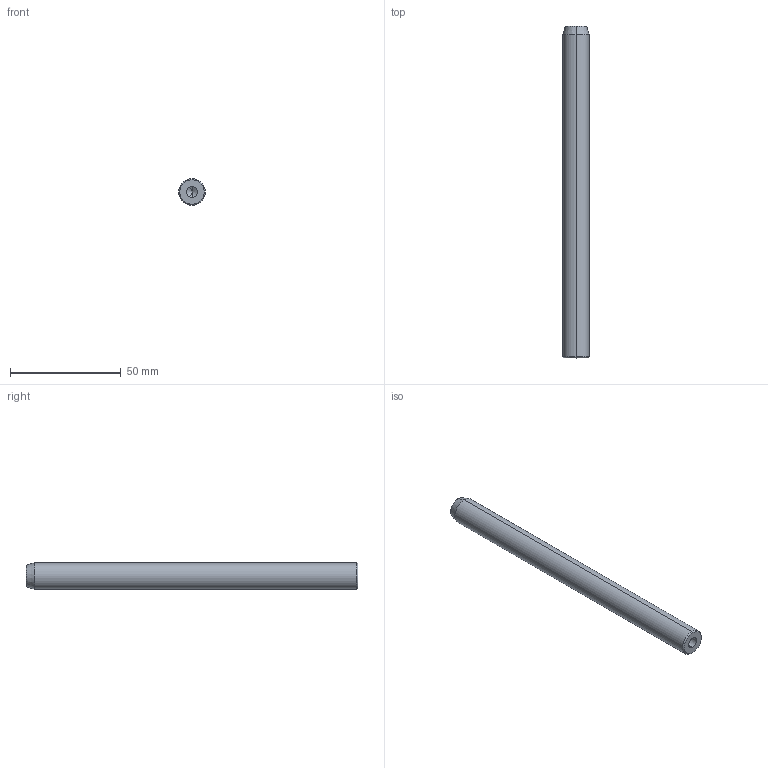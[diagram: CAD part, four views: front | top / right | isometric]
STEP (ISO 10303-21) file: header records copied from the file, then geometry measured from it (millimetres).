
FILE_DESCRIPTION (( 'STEP AP203' ), '1' );
FILE_NAME ('(STEP)M-PD12-150.STEP', '2020-04-01T02:35:58', ( '' ), ( '' ), 'SwSTEP 2.0', 'SolidWorks 2019', '' );
FILE_SCHEMA (( 'CONFIG_CONTROL_DESIGN' ));
Length unit declared in the file: millimetre
Products named in the file (1): (STEP)M-PD12-150
Bounding box: 12 x 150 x 12 mm (x, y, z)
Volume: 16556.5 mm3; surface area: 6097.3 mm2
Topology: 1 solids, 1 shells, 18 faces, 38 edges, 20 vertices
Faces by surface type: cone 8, cylinder 6, torus 2, plane 2
Entity records: 531 total; most frequent: DIRECTION 92, CARTESIAN_POINT 73, ORIENTED_EDGE 68, AXIS2_PLACEMENT_3D 39, EDGE_CURVE 34, CIRCLE 20, VERTEX_POINT 20, EDGE_LOOP 20
